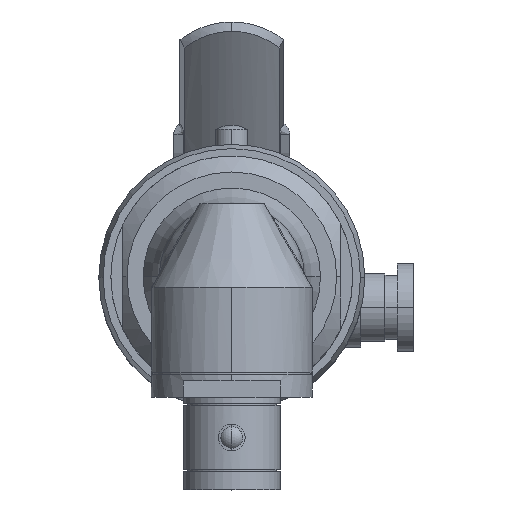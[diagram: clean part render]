
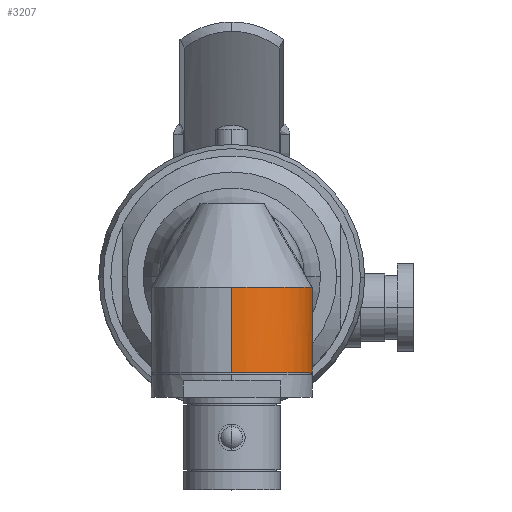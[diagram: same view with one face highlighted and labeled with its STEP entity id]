
A CAD part, top view. The second image highlights one B-rep face of the part: STEP entity #3207.
In plain terms, the highlighted cylindrical face has radius 10 mm (diameter 20 mm), a partial arc.
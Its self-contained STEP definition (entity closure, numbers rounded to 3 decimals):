
#3187 = VERTEX_POINT ( 'NONE', #18969 ) ;
#3188 = ORIENTED_EDGE ( 'NONE', *, *, #3189, .F. ) ;
#3189 = EDGE_CURVE ( 'NONE', #3190, #3187, #18968, .T. ) ;
#3190 = VERTEX_POINT ( 'NONE', #19016 ) ;
#3191 = ORIENTED_EDGE ( 'NONE', *, *, #3192, .F. ) ;
#3192 = EDGE_CURVE ( 'NONE', #3193, #3190, #19015, .T. ) ;
#3193 = VERTEX_POINT ( 'NONE', #19014 ) ;
#3194 = ORIENTED_EDGE ( 'NONE', *, *, #3195, .T. ) ;
#3195 = EDGE_CURVE ( 'NONE', #3193, #3211, #19009, .T. ) ;
#3207 = ADVANCED_FACE ( 'NONE', ( #19020 ), #19079, .T. ) ;
#3208 = EDGE_LOOP ( 'NONE', ( #3209, #3213, #3272, #3188, #3191, #3194 ) ) ;
#3209 = ORIENTED_EDGE ( 'NONE', *, *, #3210, .T. ) ;
#3210 = EDGE_CURVE ( 'NONE', #3211, #3212, #19073, .T. ) ;
#3211 = VERTEX_POINT ( 'NONE', #19069 ) ;
#3212 = VERTEX_POINT ( 'NONE', #19068 ) ;
#3213 = ORIENTED_EDGE ( 'NONE', *, *, #3214, .T. ) ;
#3214 = EDGE_CURVE ( 'NONE', #3212, #4781, #19067, .T. ) ;
#3272 = ORIENTED_EDGE ( 'NONE', *, *, #3273, .T. ) ;
#3273 = EDGE_CURVE ( 'NONE', #4781, #3187, #19270, .T. ) ;
#4781 = VERTEX_POINT ( 'NONE', #24246 ) ;
#18968 = LINE ( 'NONE', #19019, #19018 ) ;
#18969 = CARTESIAN_POINT ( 'NONE',  ( 0., -12., -10. ) ) ;
#18987 = CARTESIAN_POINT ( 'NONE',  ( 0., -9., -10. ) ) ;
#18988 = CARTESIAN_POINT ( 'NONE',  ( 0.617, -9., -10. ) ) ;
#18989 = CARTESIAN_POINT ( 'NONE',  ( 1.223, -8.937, -9.943 ) ) ;
#18990 = CARTESIAN_POINT ( 'NONE',  ( 2.118, -8.752, -9.778 ) ) ;
#18991 = CARTESIAN_POINT ( 'NONE',  ( 2.413, -8.676, -9.709 ) ) ;
#18992 = CARTESIAN_POINT ( 'NONE',  ( 2.981, -8.497, -9.55 ) ) ;
#18993 = CARTESIAN_POINT ( 'NONE',  ( 3.257, -8.395, -9.459 ) ) ;
#18994 = CARTESIAN_POINT ( 'NONE',  ( 4.059, -8.054, -9.157 ) ) ;
#18995 = CARTESIAN_POINT ( 'NONE',  ( 4.565, -7.776, -8.913 ) ) ;
#18996 = CARTESIAN_POINT ( 'NONE',  ( 5.484, -7.158, -8.379 ) ) ;
#18997 = CARTESIAN_POINT ( 'NONE',  ( 5.902, -6.816, -8.088 ) ) ;
#18998 = CARTESIAN_POINT ( 'NONE',  ( 6.474, -6.257, -7.625 ) ) ;
#18999 = CARTESIAN_POINT ( 'NONE',  ( 6.657, -6.063, -7.466 ) ) ;
#19000 = CARTESIAN_POINT ( 'NONE',  ( 7.001, -5.662, -7.144 ) ) ;
#19001 = CARTESIAN_POINT ( 'NONE',  ( 7.162, -5.456, -6.982 ) ) ;
#19002 = CARTESIAN_POINT ( 'NONE',  ( 7.617, -4.821, -6.494 ) ) ;
#19003 = CARTESIAN_POINT ( 'NONE',  ( 7.882, -4.376, -6.167 ) ) ;
#19004 = CARTESIAN_POINT ( 'NONE',  ( 8.339, -3.427, -5.533 ) ) ;
#19005 = CARTESIAN_POINT ( 'NONE',  ( 8.532, -2.918, -5.224 ) ) ;
#19006 = CARTESIAN_POINT ( 'NONE',  ( 8.754, -2.109, -4.837 ) ) ;
#19007 = CARTESIAN_POINT ( 'NONE',  ( 8.817, -1.831, -4.72 ) ) ;
#19009 = B_SPLINE_CURVE_WITH_KNOTS ( 'NONE', 3,
 ( #19050, #19049, #19048, #19047, #19046, #19045, #19044, #19043, #19042, #19041 ),
 .UNSPECIFIED., .F., .F.,
 ( 4, 2, 2, 2, 4 ),
 ( 0., 0., 0.001, 0.001, 0.001 ),
 .UNSPECIFIED. ) ;
#19011 = CARTESIAN_POINT ( 'NONE',  ( 8.918, -1.25, -4.526 ) ) ;
#19012 = CARTESIAN_POINT ( 'NONE',  ( 8.955, -0.948, -4.451 ) ) ;
#19013 = CARTESIAN_POINT ( 'NONE',  ( 8.977, -0.644, -4.406 ) ) ;
#19014 = CARTESIAN_POINT ( 'NONE',  ( 8.977, -0.644, -4.406 ) ) ;
#19015 = B_SPLINE_CURVE_WITH_KNOTS ( 'NONE', 3,
 ( #19013, #19012, #19011, #19007, #19006, #19005, #19004, #19003, #19002, #19001, #19000, #18999, #18998, #18997, #18996, #18995, #18994, #18993, #18992, #18991, #18990, #18989, #18988, #18987 ),
 .UNSPECIFIED., .F., .F.,
 ( 4, 2, 2, 2, 2, 2, 2, 2, 2, 2, 2, 4 ),
 ( 0.016, 0.017, 0.018, 0.02, 0.022, 0.022, 0.023, 0.025, 0.027, 0.028, 0.029, 0.031 ),
 .UNSPECIFIED. ) ;
#19016 = CARTESIAN_POINT ( 'NONE',  ( 0., -9., -10. ) ) ;
#19017 = DIRECTION ( 'NONE',  ( 0., -1., 0. ) ) ;
#19018 = VECTOR ( 'NONE', #19017, 1000. ) ;
#19019 = CARTESIAN_POINT ( 'NONE',  ( 0., 9., -10. ) ) ;
#19020 = FACE_OUTER_BOUND ( 'NONE', #3208, .T. ) ;
#19041 = CARTESIAN_POINT ( 'NONE',  ( 9.275, -1.392, -3.737 ) ) ;
#19042 = CARTESIAN_POINT ( 'NONE',  ( 9.237, -1.392, -3.833 ) ) ;
#19043 = CARTESIAN_POINT ( 'NONE',  ( 9.196, -1.384, -3.93 ) ) ;
#19044 = CARTESIAN_POINT ( 'NONE',  ( 9.116, -1.333, -4.113 ) ) ;
#19045 = CARTESIAN_POINT ( 'NONE',  ( 9.075, -1.289, -4.201 ) ) ;
#19046 = CARTESIAN_POINT ( 'NONE',  ( 9.01, -1.149, -4.34 ) ) ;
#19047 = CARTESIAN_POINT ( 'NONE',  ( 8.987, -1.053, -4.385 ) ) ;
#19048 = CARTESIAN_POINT ( 'NONE',  ( 8.968, -0.852, -4.424 ) ) ;
#19049 = CARTESIAN_POINT ( 'NONE',  ( 8.97, -0.747, -4.421 ) ) ;
#19050 = CARTESIAN_POINT ( 'NONE',  ( 8.977, -0.644, -4.406 ) ) ;
#19064 = DIRECTION ( 'NONE',  ( 0., -1., 0. ) ) ;
#19065 = VECTOR ( 'NONE', #19064, 1000. ) ;
#19066 = CARTESIAN_POINT ( 'NONE',  ( 0., 9., 10. ) ) ;
#19067 = LINE ( 'NONE', #19066, #19065 ) ;
#19068 = CARTESIAN_POINT ( 'NONE',  ( 0., -1.392, 10. ) ) ;
#19069 = CARTESIAN_POINT ( 'NONE',  ( 9.275, -1.392, -3.737 ) ) ;
#19070 = DIRECTION ( 'NONE',  ( 0., 0., -1. ) ) ;
#19071 = DIRECTION ( 'NONE',  ( 0., -1., 0. ) ) ;
#19072 = AXIS2_PLACEMENT_3D ( 'NONE', #19078, #19071, #19070 ) ;
#19073 = CIRCLE ( 'NONE', #19072, 10. ) ;
#19074 = DIRECTION ( 'NONE',  ( 0., 0., -1. ) ) ;
#19075 = DIRECTION ( 'NONE',  ( 0., -1., 0. ) ) ;
#19076 = CARTESIAN_POINT ( 'NONE',  ( 0., 9., 0. ) ) ;
#19077 = AXIS2_PLACEMENT_3D ( 'NONE', #19076, #19075, #19074 ) ;
#19078 = CARTESIAN_POINT ( 'NONE',  ( 0., -1.392, 0. ) ) ;
#19079 = CYLINDRICAL_SURFACE ( 'NONE', #19077, 10. ) ;
#19270 = CIRCLE ( 'NONE', #19300, 10. ) ;
#19297 = DIRECTION ( 'NONE',  ( 0., 0., 1. ) ) ;
#19298 = DIRECTION ( 'NONE',  ( 0., 1., 0. ) ) ;
#19299 = CARTESIAN_POINT ( 'NONE',  ( 0., -12., 0. ) ) ;
#19300 = AXIS2_PLACEMENT_3D ( 'NONE', #19299, #19298, #19297 ) ;
#24246 = CARTESIAN_POINT ( 'NONE',  ( 0., -12., 10. ) ) ;
